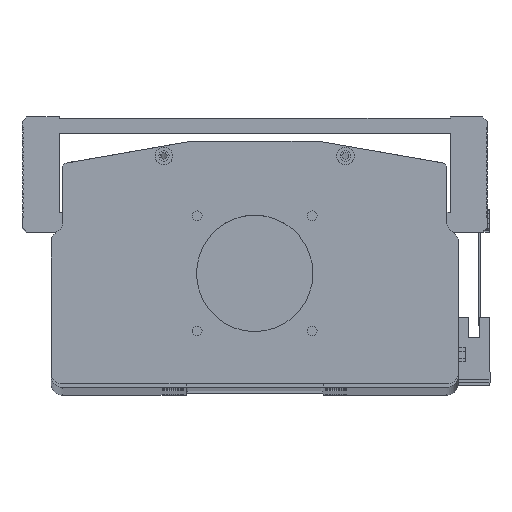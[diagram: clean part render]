
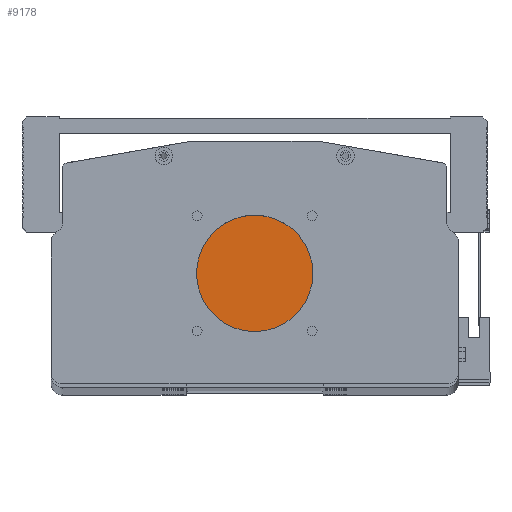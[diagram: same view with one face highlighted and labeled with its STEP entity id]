
A CAD part, top view. The second image highlights one B-rep face of the part: STEP entity #9178.
In plain terms, the highlighted planar face has unit normal (0, 0, 1).
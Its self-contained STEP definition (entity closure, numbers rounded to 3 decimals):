
#1984 = PLANE ( 'NONE',  #31350 ) ;
#6951 = AXIS2_PLACEMENT_3D ( 'NONE', #35927, #17837, #38988 ) ;
#8096 = DIRECTION ( 'NONE',  ( 1., 0., 0. ) ) ;
#9178 = ADVANCED_FACE ( 'NONE', ( #38100 ), #1984, .T. ) ;
#9273 = AXIS2_PLACEMENT_3D ( 'NONE', #31881, #13740, #34927 ) ;
#10825 = CIRCLE ( 'NONE', #9273, 25. ) ;
#11301 = VERTEX_POINT ( 'NONE', #14563 ) ;
#11940 = EDGE_LOOP ( 'NONE', ( #33407, #12127 ) ) ;
#12127 = ORIENTED_EDGE ( 'NONE', *, *, #20228, .T. ) ;
#13740 = DIRECTION ( 'NONE',  ( 0., 0., 1. ) ) ;
#14563 = CARTESIAN_POINT ( 'NONE',  ( 112.5, 47.5, 0. ) ) ;
#15471 = VERTEX_POINT ( 'NONE', #17487 ) ;
#17487 = CARTESIAN_POINT ( 'NONE',  ( 62.5, 47.5, 0. ) ) ;
#17837 = DIRECTION ( 'NONE',  ( 0., 0., 1. ) ) ;
#20228 = EDGE_CURVE ( 'NONE', #11301, #15471, #10825, .T. ) ;
#20917 = EDGE_CURVE ( 'NONE', #15471, #11301, #22814, .T. ) ;
#22814 = CIRCLE ( 'NONE', #6951, 25. ) ;
#23354 = CARTESIAN_POINT ( 'NONE',  ( 0., 0., 0. ) ) ;
#26426 = DIRECTION ( 'NONE',  ( 0., 0., 1. ) ) ;
#31350 = AXIS2_PLACEMENT_3D ( 'NONE', #23354, #26426, #8096 ) ;
#31881 = CARTESIAN_POINT ( 'NONE',  ( 87.5, 47.5, 0. ) ) ;
#33407 = ORIENTED_EDGE ( 'NONE', *, *, #20917, .T. ) ;
#34927 = DIRECTION ( 'NONE',  ( 1., 0., 0. ) ) ;
#35927 = CARTESIAN_POINT ( 'NONE',  ( 87.5, 47.5, 0. ) ) ;
#38100 = FACE_OUTER_BOUND ( 'NONE', #11940, .T. ) ;
#38988 = DIRECTION ( 'NONE',  ( 1., 0., 0. ) ) ;
